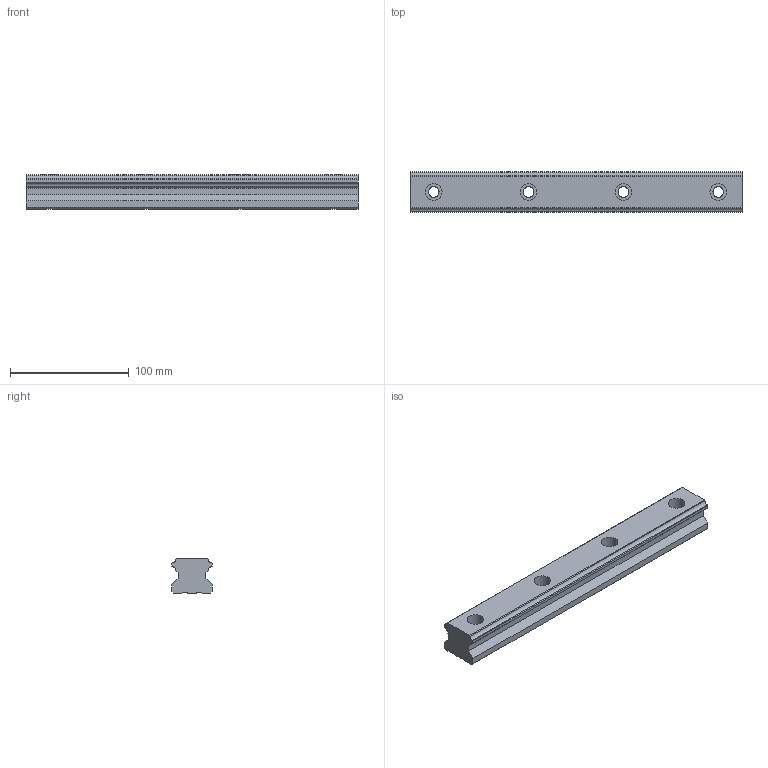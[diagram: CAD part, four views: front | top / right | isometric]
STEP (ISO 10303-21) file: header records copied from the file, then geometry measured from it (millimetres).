
FILE_DESCRIPTION(('starvars output'),'2;1');
FILE_NAME('cv20190626220236000039697.stp','22:02:36 2019/06/26',( 'Thomas Industrial Network Germany GmbH'),( 'Thomas Industrial Network Germany GmbH'),'unknown preprocess','ACIS' ,'unknown authorization');
FILE_SCHEMA(('CONFIG_CONTROL_DESIGN {UNKNOWN IMPLEMENTATION LEVEL}'));
Length unit declared in the file: millimetre
Products named in the file (1): PRODUCT_ID_1
Bounding box: 280 x 34 x 29 mm (x, y, z)
Volume: 224954.1 mm3; surface area: 41677 mm2
Topology: 1 solids, 1 shells, 66 faces, 192 edges, 128 vertices
Faces by surface type: plane 46, cylinder 20
Entity records: 1985 total; most frequent: ORIENTED_EDGE 384, CARTESIAN_POINT 318, DIRECTION 276, EDGE_CURVE 192, VERTEX_POINT 128, VECTOR 104, LINE 104, AXIS2_PLACEMENT_3D 86
